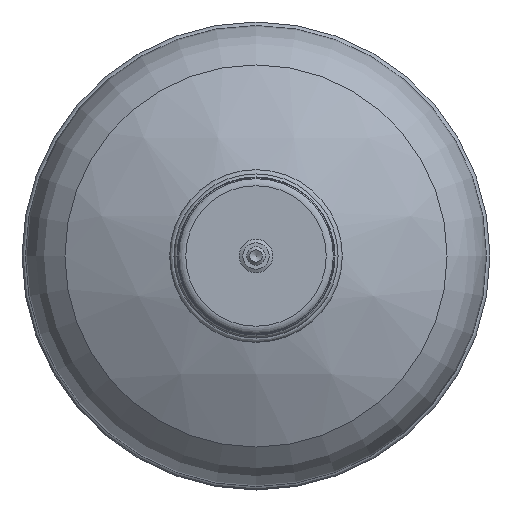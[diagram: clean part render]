
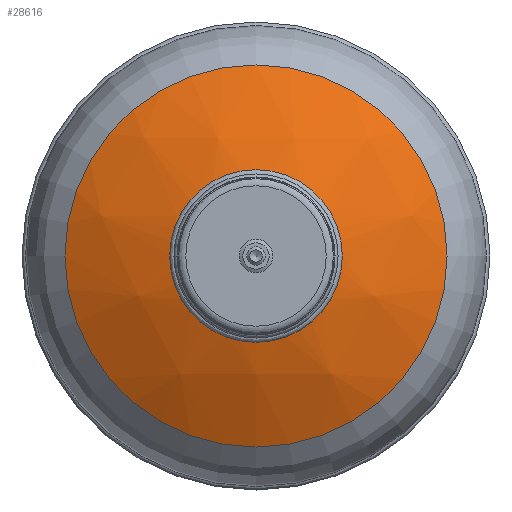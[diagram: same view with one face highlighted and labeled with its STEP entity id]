
A CAD part, front view. The second image highlights one B-rep face of the part: STEP entity #28616.
In plain terms, the highlighted spherical face has radius 244 mm.
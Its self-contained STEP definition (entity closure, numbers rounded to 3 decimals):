
#20=SPHERICAL_SURFACE('',#30772,244.);
#1844=FACE_BOUND('',#6056,.T.);
#2182=CIRCLE('',#28922,56.346);
#2675=CIRCLE('',#30773,125.194);
#4266=FACE_OUTER_BOUND('',#6055,.T.);
#6055=EDGE_LOOP('',(#26046));
#6056=EDGE_LOOP('',(#26047));
#11058=VERTEX_POINT('',#40394);
#13484=VERTEX_POINT('',#61057);
#14074=EDGE_CURVE('',#11058,#11058,#2182,.T.);
#17702=EDGE_CURVE('',#13484,#13484,#2675,.T.);
#26046=ORIENTED_EDGE('',*,*,#17702,.F.);
#26047=ORIENTED_EDGE('',*,*,#14074,.T.);
#28616=ADVANCED_FACE('',(#4266,#1844),#20,.T.);
#28922=AXIS2_PLACEMENT_3D('',#40395,#31612,#31613);
#30772=AXIS2_PLACEMENT_3D('',#61056,#37070,#37071);
#30773=AXIS2_PLACEMENT_3D('',#61058,#37072,#37073);
#31612=DIRECTION('center_axis',(0.,1.,0.));
#31613=DIRECTION('ref_axis',(0.,0.,-1.));
#37070=DIRECTION('center_axis',(0.,0.,
1.));
#37071=DIRECTION('ref_axis',(-1.,0.,0.));
#37072=DIRECTION('center_axis',(0.,1.,0.));
#37073=DIRECTION('ref_axis',(1.,0.,0.));
#40394=CARTESIAN_POINT('',(56.346,-153.605,0.));
#40395=CARTESIAN_POINT('Origin',(0.,-153.605,0.));
#61056=CARTESIAN_POINT('Origin',(0.,83.8,0.));
#61057=CARTESIAN_POINT('',(125.194,-125.634,0.));
#61058=CARTESIAN_POINT('Origin',(0.,-125.634,
0.));
